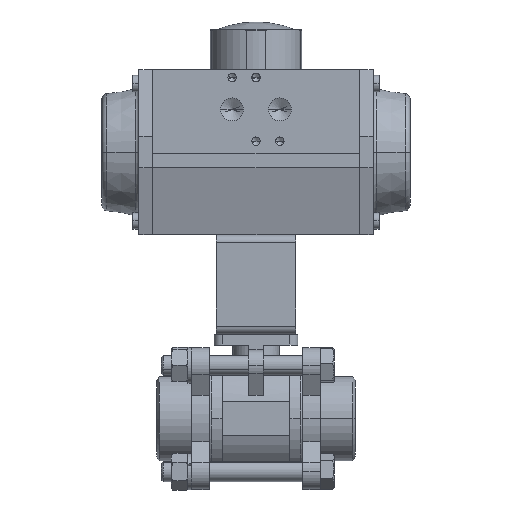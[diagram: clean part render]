
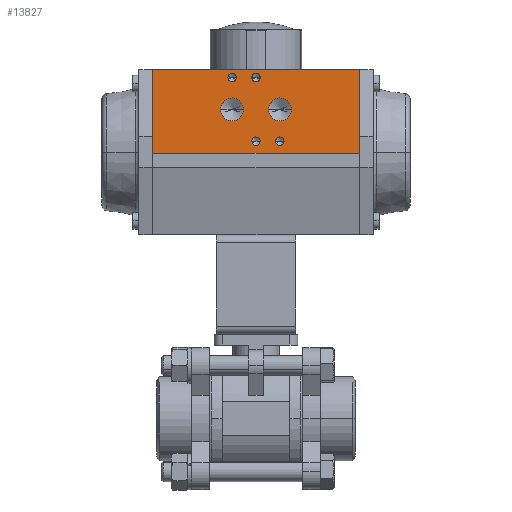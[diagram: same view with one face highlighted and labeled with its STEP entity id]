
A CAD part, top view. The second image highlights one B-rep face of the part: STEP entity #13827.
In plain terms, the highlighted planar face has unit normal (0, 0, 1) as drawn and (1, 0, 0) by its records, which use the part's own axes.
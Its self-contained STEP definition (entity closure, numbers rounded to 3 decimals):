
#756 = CARTESIAN_POINT ( 'NONE',  ( 42.5, 21.5, 12. ) ) ;
#757 = DIRECTION ( 'NONE',  ( 1., 0., 0. ) ) ;
#758 = DIRECTION ( 'NONE',  ( 0., 0., -1. ) ) ;
#774 = CARTESIAN_POINT ( 'NONE',  ( 42.5, 21.5, -12. ) ) ;
#775 = DIRECTION ( 'NONE',  ( 1., 0., 0. ) ) ;
#776 = DIRECTION ( 'NONE',  ( 0., 0., -1. ) ) ;
#792 = CARTESIAN_POINT ( 'NONE',  ( 42.5, 37.5, 0. ) ) ;
#793 = DIRECTION ( 'NONE',  ( 1., 0., 0. ) ) ;
#794 = DIRECTION ( 'NONE',  ( 0., 0., -1. ) ) ;
#810 = CARTESIAN_POINT ( 'NONE',  ( 42.5, 5.5, 0. ) ) ;
#811 = DIRECTION ( 'NONE',  ( 1., 0., 0. ) ) ;
#812 = DIRECTION ( 'NONE',  ( 0., 0., -1. ) ) ;
#828 = CARTESIAN_POINT ( 'NONE',  ( 42.5, 5.5, -12. ) ) ;
#829 = DIRECTION ( 'NONE',  ( 1., 0., 0. ) ) ;
#830 = DIRECTION ( 'NONE',  ( 0., 0., -1. ) ) ;
#846 = CARTESIAN_POINT ( 'NONE',  ( 42.5, 37.5, 12. ) ) ;
#847 = DIRECTION ( 'NONE',  ( 1., 0., 0. ) ) ;
#848 = DIRECTION ( 'NONE',  ( 0., 0., -1. ) ) ;
#1702 = AXIS2_PLACEMENT_3D ( 'NONE', #13541, #13553, #13554 ) ;
#2547 = CARTESIAN_POINT ( 'NONE',  ( 42.5, -0.5, 52. ) ) ;
#2549 = CARTESIAN_POINT ( 'NONE',  ( 42.5, 41.5, 52. ) ) ;
#2550 = CARTESIAN_POINT ( 'NONE',  ( 42.5, 41.5, -52. ) ) ;
#2555 = CARTESIAN_POINT ( 'NONE',  ( 42.5, -0.5, -52. ) ) ;
#2699 = CARTESIAN_POINT ( 'NONE',  ( 42.5, 21.5, 6.277 ) ) ;
#2701 = CARTESIAN_POINT ( 'NONE',  ( 42.5, 21.5, 17.722 ) ) ;
#2712 = CARTESIAN_POINT ( 'NONE',  ( 42.5, 21.5, -17.722 ) ) ;
#2713 = CARTESIAN_POINT ( 'NONE',  ( 42.5, 21.5, -6.277 ) ) ;
#2721 = CARTESIAN_POINT ( 'NONE',  ( 42.5, 37.5, -2.1 ) ) ;
#2722 = CARTESIAN_POINT ( 'NONE',  ( 42.5, 37.5, 2.1 ) ) ;
#2733 = CARTESIAN_POINT ( 'NONE',  ( 42.5, 5.5, -2.1 ) ) ;
#2739 = CARTESIAN_POINT ( 'NONE',  ( 42.5, 5.5, 2.1 ) ) ;
#2745 = CARTESIAN_POINT ( 'NONE',  ( 42.5, 5.5, -14.1 ) ) ;
#2746 = CARTESIAN_POINT ( 'NONE',  ( 42.5, 5.5, -9.9 ) ) ;
#2768 = CARTESIAN_POINT ( 'NONE',  ( 42.5, 37.5, 9.9 ) ) ;
#2769 = CARTESIAN_POINT ( 'NONE',  ( 42.5, 37.5, 14.1 ) ) ;
#4869 = CIRCLE ( 'NONE', #5427, 2.1 ) ;
#4872 = VECTOR ( 'NONE', #15197, 1000. ) ;
#4944 = CIRCLE ( 'NONE', #5435, 2.1 ) ;
#5106 = VERTEX_POINT ( 'NONE', #2547 ) ;
#5109 = VERTEX_POINT ( 'NONE', #2549 ) ;
#5111 = VERTEX_POINT ( 'NONE', #2550 ) ;
#5119 = VERTEX_POINT ( 'NONE', #2555 ) ;
#5339 = VERTEX_POINT ( 'NONE', #2699 ) ;
#5341 = VERTEX_POINT ( 'NONE', #2701 ) ;
#5357 = VERTEX_POINT ( 'NONE', #2712 ) ;
#5359 = VERTEX_POINT ( 'NONE', #2713 ) ;
#5368 = VERTEX_POINT ( 'NONE', #2721 ) ;
#5369 = VERTEX_POINT ( 'NONE', #2722 ) ;
#5371 = VECTOR ( 'NONE', #15225, 1000. ) ;
#5373 = AXIS2_PLACEMENT_3D ( 'NONE', #15218, #15219, #15220 ) ;
#5385 = VERTEX_POINT ( 'NONE', #2733 ) ;
#5391 = VERTEX_POINT ( 'NONE', #2739 ) ;
#5392 = VECTOR ( 'NONE', #15227, 1000. ) ;
#5399 = AXIS2_PLACEMENT_3D ( 'NONE', #15213, #15214, #15215 ) ;
#5400 = VERTEX_POINT ( 'NONE', #2745 ) ;
#5401 = VERTEX_POINT ( 'NONE', #2746 ) ;
#5407 = VECTOR ( 'NONE', #15221, 1000. ) ;
#5413 = AXIS2_PLACEMENT_3D ( 'NONE', #15210, #15211, #15212 ) ;
#5415 = CIRCLE ( 'NONE', #5373, 5.722 ) ;
#5418 = AXIS2_PLACEMENT_3D ( 'NONE', #15207, #15208, #15209 ) ;
#5421 = CIRCLE ( 'NONE', #5399, 5.722 ) ;
#5427 = AXIS2_PLACEMENT_3D ( 'NONE', #15204, #15205, #15206 ) ;
#5429 = CIRCLE ( 'NONE', #5413, 2.1 ) ;
#5435 = AXIS2_PLACEMENT_3D ( 'NONE', #15201, #15202, #15203 ) ;
#5437 = CIRCLE ( 'NONE', #5418, 2.1 ) ;
#5438 = VERTEX_POINT ( 'NONE', #2768 ) ;
#5439 = VERTEX_POINT ( 'NONE', #2769 ) ;
#5961 = EDGE_LOOP ( 'NONE', ( #8878, #8877, #8876, #8875 ) ) ;
#5962 = EDGE_LOOP ( 'NONE', ( #8886, #8885 ) ) ;
#5963 = EDGE_LOOP ( 'NONE', ( #8882, #8881 ) ) ;
#5964 = EDGE_LOOP ( 'NONE', ( #9970, #9969 ) ) ;
#5965 = EDGE_LOOP ( 'NONE', ( #8884, #8883 ) ) ;
#6529 = AXIS2_PLACEMENT_3D ( 'NONE', #846, #847, #848 ) ;
#6531 = CIRCLE ( 'NONE', #6529, 2.1 ) ;
#6537 = AXIS2_PLACEMENT_3D ( 'NONE', #828, #829, #830 ) ;
#6539 = CIRCLE ( 'NONE', #6537, 2.1 ) ;
#6548 = AXIS2_PLACEMENT_3D ( 'NONE', #810, #811, #812 ) ;
#6550 = CIRCLE ( 'NONE', #6548, 2.1 ) ;
#6556 = AXIS2_PLACEMENT_3D ( 'NONE', #792, #793, #794 ) ;
#6559 = CIRCLE ( 'NONE', #6556, 2.1 ) ;
#6568 = AXIS2_PLACEMENT_3D ( 'NONE', #774, #775, #776 ) ;
#6570 = CIRCLE ( 'NONE', #6568, 5.722 ) ;
#6579 = AXIS2_PLACEMENT_3D ( 'NONE', #756, #757, #758 ) ;
#6582 = CIRCLE ( 'NONE', #6579, 5.722 ) ;
#8552 = EDGE_LOOP ( 'NONE', ( #8880, #8879 ) ) ;
#8553 = EDGE_LOOP ( 'NONE', ( #8888, #8887 ) ) ;
#8875 = ORIENTED_EDGE ( 'NONE', *, *, #8971, .T. ) ;
#8876 = ORIENTED_EDGE ( 'NONE', *, *, #8970, .F. ) ;
#8877 = ORIENTED_EDGE ( 'NONE', *, *, #8969, .F. ) ;
#8878 = ORIENTED_EDGE ( 'NONE', *, *, #8961, .T. ) ;
#8879 = ORIENTED_EDGE ( 'NONE', *, *, #10796, .F. ) ;
#8880 = ORIENTED_EDGE ( 'NONE', *, *, #8968, .F. ) ;
#8881 = ORIENTED_EDGE ( 'NONE', *, *, #10802, .F. ) ;
#8882 = ORIENTED_EDGE ( 'NONE', *, *, #8967, .F. ) ;
#8883 = ORIENTED_EDGE ( 'NONE', *, *, #10808, .F. ) ;
#8884 = ORIENTED_EDGE ( 'NONE', *, *, #8966, .F. ) ;
#8885 = ORIENTED_EDGE ( 'NONE', *, *, #10814, .F. ) ;
#8886 = ORIENTED_EDGE ( 'NONE', *, *, #8965, .F. ) ;
#8887 = ORIENTED_EDGE ( 'NONE', *, *, #10820, .F. ) ;
#8888 = ORIENTED_EDGE ( 'NONE', *, *, #8964, .F. ) ;
#8961 = EDGE_CURVE ( 'NONE', #5111, #5109, #15194, .T. ) ;
#8963 = EDGE_CURVE ( 'NONE', #5438, #5439, #4944, .T. ) ;
#8964 = EDGE_CURVE ( 'NONE', #5400, #5401, #4869, .T. ) ;
#8965 = EDGE_CURVE ( 'NONE', #5385, #5391, #5437, .T. ) ;
#8966 = EDGE_CURVE ( 'NONE', #5368, #5369, #5429, .T. ) ;
#8967 = EDGE_CURVE ( 'NONE', #5357, #5359, #5421, .T. ) ;
#8968 = EDGE_CURVE ( 'NONE', #5339, #5341, #5415, .T. ) ;
#8969 = EDGE_CURVE ( 'NONE', #5106, #5109, #15217, .T. ) ;
#8970 = EDGE_CURVE ( 'NONE', #5119, #5106, #15222, .T. ) ;
#8971 = EDGE_CURVE ( 'NONE', #5119, #5111, #15216, .T. ) ;
#9969 = ORIENTED_EDGE ( 'NONE', *, *, #10826, .F. ) ;
#9970 = ORIENTED_EDGE ( 'NONE', *, *, #8963, .F. ) ;
#10796 = EDGE_CURVE ( 'NONE', #5341, #5339, #6582, .T. ) ;
#10802 = EDGE_CURVE ( 'NONE', #5359, #5357, #6570, .T. ) ;
#10808 = EDGE_CURVE ( 'NONE', #5369, #5368, #6559, .T. ) ;
#10814 = EDGE_CURVE ( 'NONE', #5391, #5385, #6550, .T. ) ;
#10820 = EDGE_CURVE ( 'NONE', #5401, #5400, #6539, .T. ) ;
#10826 = EDGE_CURVE ( 'NONE', #5439, #5438, #6531, .T. ) ;
#13538 = FACE_BOUND ( 'NONE', #8553, .T. ) ;
#13541 = CARTESIAN_POINT ( 'NONE',  ( 42.5, -0.5, -52. ) ) ;
#13544 = FACE_BOUND ( 'NONE', #5963, .T. ) ;
#13545 = FACE_BOUND ( 'NONE', #5964, .T. ) ;
#13546 = FACE_BOUND ( 'NONE', #8552, .T. ) ;
#13547 = FACE_OUTER_BOUND ( 'NONE', #5961, .T. ) ;
#13548 = FACE_BOUND ( 'NONE', #5962, .T. ) ;
#13549 = PLANE ( 'NONE',  #1702 ) ;
#13550 = FACE_BOUND ( 'NONE', #5965, .T. ) ;
#13553 = DIRECTION ( 'NONE',  ( 1., 0., 0. ) ) ;
#13554 = DIRECTION ( 'NONE',  ( 0., 1., 0. ) ) ;
#13827 = ADVANCED_FACE ( 'NONE', ( #13545, #13538, #13548, #13550, #13544, #13546, #13547 ), #13549, .T. ) ;
#15194 = LINE ( 'NONE', #15196, #4872 ) ;
#15196 = CARTESIAN_POINT ( 'NONE',  ( 42.5, 41.5, -52. ) ) ;
#15197 = DIRECTION ( 'NONE',  ( 0., 0., 1. ) ) ;
#15200 = CARTESIAN_POINT ( 'NONE',  ( 42.5, -0.5, 52. ) ) ;
#15201 = CARTESIAN_POINT ( 'NONE',  ( 42.5, 37.5, 12. ) ) ;
#15202 = DIRECTION ( 'NONE',  ( 1., 0., 0. ) ) ;
#15203 = DIRECTION ( 'NONE',  ( 0., 0., -1. ) ) ;
#15204 = CARTESIAN_POINT ( 'NONE',  ( 42.5, 5.5, -12. ) ) ;
#15205 = DIRECTION ( 'NONE',  ( 1., 0., 0. ) ) ;
#15206 = DIRECTION ( 'NONE',  ( 0., 0., -1. ) ) ;
#15207 = CARTESIAN_POINT ( 'NONE',  ( 42.5, 5.5, 0. ) ) ;
#15208 = DIRECTION ( 'NONE',  ( 1., 0., 0. ) ) ;
#15209 = DIRECTION ( 'NONE',  ( 0., 0., -1. ) ) ;
#15210 = CARTESIAN_POINT ( 'NONE',  ( 42.5, 37.5, 0. ) ) ;
#15211 = DIRECTION ( 'NONE',  ( 1., 0., 0. ) ) ;
#15212 = DIRECTION ( 'NONE',  ( 0., 0., -1. ) ) ;
#15213 = CARTESIAN_POINT ( 'NONE',  ( 42.5, 21.5, -12. ) ) ;
#15214 = DIRECTION ( 'NONE',  ( 1., 0., 0. ) ) ;
#15215 = DIRECTION ( 'NONE',  ( 0., 0., -1. ) ) ;
#15216 = LINE ( 'NONE', #15226, #5392 ) ;
#15217 = LINE ( 'NONE', #15200, #5407 ) ;
#15218 = CARTESIAN_POINT ( 'NONE',  ( 42.5, 21.5, 12. ) ) ;
#15219 = DIRECTION ( 'NONE',  ( 1., 0., 0. ) ) ;
#15220 = DIRECTION ( 'NONE',  ( 0., 0., -1. ) ) ;
#15221 = DIRECTION ( 'NONE',  ( 0., 1., 0. ) ) ;
#15222 = LINE ( 'NONE', #15224, #5371 ) ;
#15224 = CARTESIAN_POINT ( 'NONE',  ( 42.5, -0.5, -52. ) ) ;
#15225 = DIRECTION ( 'NONE',  ( 0., 0., 1. ) ) ;
#15226 = CARTESIAN_POINT ( 'NONE',  ( 42.5, -0.5, -52. ) ) ;
#15227 = DIRECTION ( 'NONE',  ( 0., 1., 0. ) ) ;
